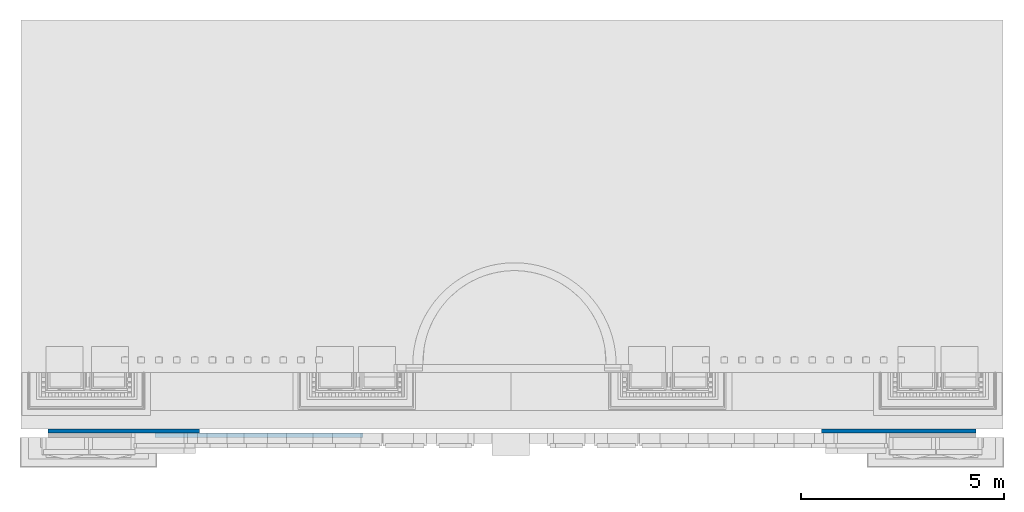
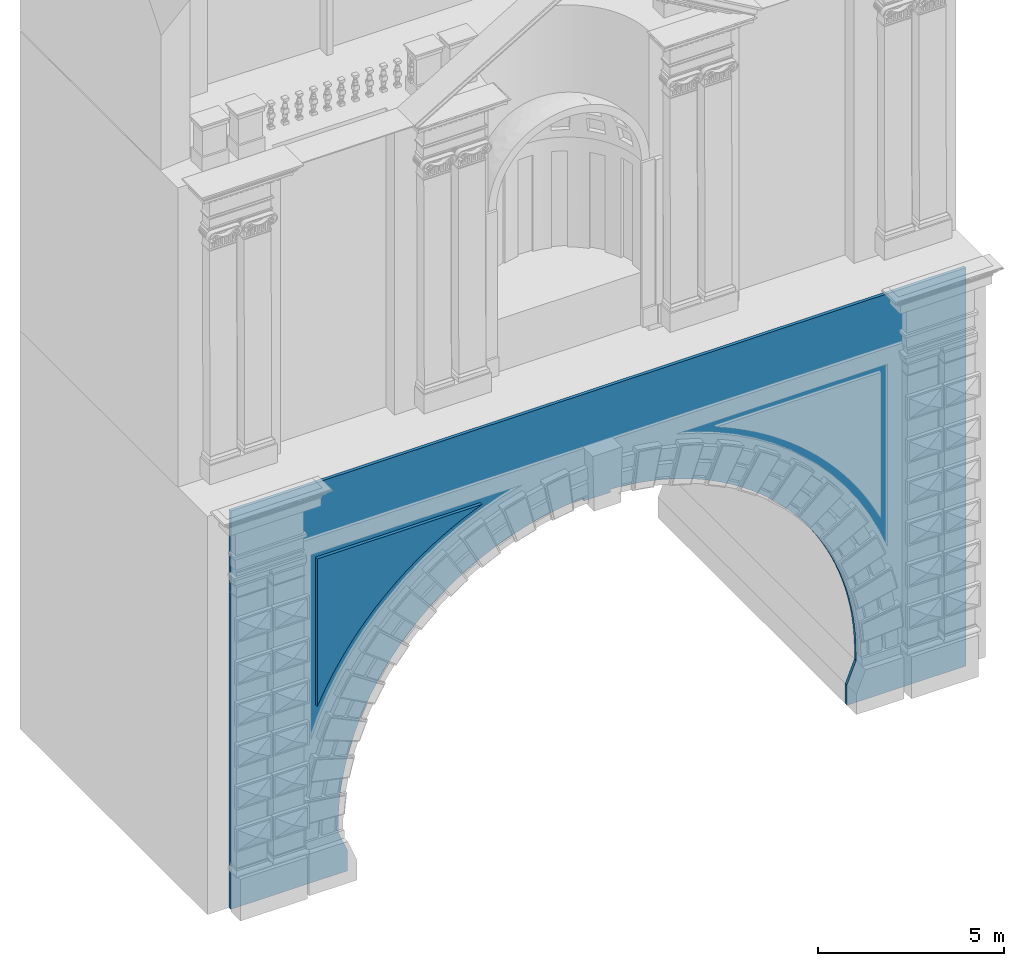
# One storey, part 1 of 44: 2 walls.
"""IFC2X3 building model written with IfcOpenShell, lengths in metres."""

from ifc_helpers import new_model, entity, si_unit, converted_unit, derived_unit, direction, frame, origin, place, context, subcontext, project, spatial, faceted_brep, material, element, save


model = new_model("IFC2X3")

# Units and contexts
model_context = context("Model", 3, precision=1e-05, world=origin(), true_north=direction((6.12303176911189e-17, 1.0)))
body_context = subcontext(model_context, "Body", "Model", "MODEL_VIEW")
ifc_project = project(units=[si_unit("LENGTHUNIT", "METRE"), si_unit("AREAUNIT", "SQUARE_METRE"), si_unit("VOLUMEUNIT", "CUBIC_METRE"), converted_unit("PLANEANGLEUNIT", "DEGREE", entity("IfcRatioMeasure", 0.0174532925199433), si_unit("PLANEANGLEUNIT", "RADIAN"), dimensions=[0, 0, 0, 0, 0, 0, 0]), si_unit("MASSUNIT", "GRAM", prefix="KILO"), derived_unit("MASSDENSITYUNIT", [(si_unit("MASSUNIT", "GRAM", prefix="KILO"), 1), (si_unit("LENGTHUNIT", "METRE"), -3)]), si_unit("TIMEUNIT", "SECOND"), si_unit("FREQUENCYUNIT", "HERTZ"), si_unit("THERMODYNAMICTEMPERATUREUNIT", "DEGREE_CELSIUS"), derived_unit("THERMALTRANSMITTANCEUNIT", [(si_unit("MASSUNIT", "GRAM", prefix="KILO"), 1), (si_unit("THERMODYNAMICTEMPERATUREUNIT", "KELVIN"), -1), (si_unit("TIMEUNIT", "SECOND"), -3)]), derived_unit("VOLUMETRICFLOWRATEUNIT", [(si_unit("LENGTHUNIT", "METRE"), 3), (si_unit("TIMEUNIT", "SECOND"), -1)]), si_unit("ELECTRICCURRENTUNIT", "AMPERE"), si_unit("ELECTRICVOLTAGEUNIT", "VOLT"), si_unit("POWERUNIT", "WATT"), si_unit("FORCEUNIT", "NEWTON", prefix="KILO"), si_unit("ILLUMINANCEUNIT", "LUX"), si_unit("LUMINOUSFLUXUNIT", "LUMEN"), si_unit("LUMINOUSINTENSITYUNIT", "CANDELA"), derived_unit("USERDEFINED", [(si_unit("MASSUNIT", "GRAM", prefix="KILO"), -1), (si_unit("LENGTHUNIT", "METRE"), -2), (si_unit("TIMEUNIT", "SECOND"), 3), (si_unit("LUMINOUSFLUXUNIT", "LUMEN"), 1)]), derived_unit("LINEARVELOCITYUNIT", [(si_unit("LENGTHUNIT", "METRE"), 1), (si_unit("TIMEUNIT", "SECOND"), -1)]), si_unit("PRESSUREUNIT", "PASCAL"), derived_unit("USERDEFINED", [(si_unit("LENGTHUNIT", "METRE"), -2), (si_unit("MASSUNIT", "GRAM", prefix="KILO"), 1), (si_unit("TIMEUNIT", "SECOND"), -2)])], contexts=[model_context])

# Site, building, storey
site_placement = place(None, origin())
site = spatial("IfcSite", under=ifc_project, at=site_placement, Name="Default", CompositionType="ELEMENT")
building_placement = place(site_placement, origin())
building = spatial("IfcBuilding", under=site, at=building_placement, CompositionType="ELEMENT")
storey_placement = place(building_placement, origin())
storey = spatial("IfcBuildingStorey", under=building, at=storey_placement, Name="Livello 1", CompositionType="ELEMENT", Elevation=0.0)

# Walls
ifc_material = material(Name="Travertino")
wall_1_placement = place(storey_placement, frame((-11.4560798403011, -0.234467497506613, 0.0)))
element("IfcWall", 1, at=wall_1_placement, inside=storey, material=ifc_material, Name="Stratigrafia", context=body_context, shape_type="Brep", body=[
    faceted_brep([(0.0, 0.100000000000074, 13.066833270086), (0.0, 0.0, 13.066833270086), (22.8114435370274, 0.0, 13.066833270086), (22.8114435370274, 0.1, 13.066833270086), (0.0, 0.0, 0.0), (3.62394293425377, 0.0, 0.0), (3.62394293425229, 0.0, 0.663748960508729), (3.33733845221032, 0.0, 1.36736325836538), (3.33733845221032, 0.0, 1.63613172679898), (3.34343128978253, 0.0, 1.94896410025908), (3.36170056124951, 0.0, 2.26132198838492), (3.39211855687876, 0.0, 2.57273162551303), (3.43463914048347, 0.0, 2.88272068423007), (3.48919781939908, 0.0, 3.19081899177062), (3.55571184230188, 0.0, 3.49655924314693), (3.63408032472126, 0.0, 3.79947770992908), (3.72418440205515, 0.0, 4.09911494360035), (3.8258874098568, 0.0, 4.39501647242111), (3.93903509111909, 0.0, 4.68673349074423), (4.06345583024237, 0.0, 4.9738235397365), (4.19896091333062, 0.0, 5.25585117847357), (4.34534481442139, 0.0, 5.5323886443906), (4.50238550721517, 0.0, 5.80301650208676), (4.6698448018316, 0.0, 6.06732427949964), (4.84746870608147, 0.0, 6.32491109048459), (5.03498781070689, 0.0, 6.57538624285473), (5.23211769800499, 0.0, 6.81836983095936), (5.43855937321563, 0.0, 7.05349331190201), (5.65399971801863, 0.0, 7.28040006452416), (5.87811196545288, 0.0, 7.49874593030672), (6.11055619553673, 0.0, 7.70819973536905), (6.35097985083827, 0.0, 7.90844379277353), (6.59901827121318, 0.0, 8.09917438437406), (6.85429524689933, 0.0, 8.28010222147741), (7.11642358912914, 0.0, 8.45095288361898), (7.38500571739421, 0.0, 8.61146723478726), (7.65963426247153, 0.0, 8.76140181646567), (7.9398926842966, 0.0, 8.90052921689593), (8.22535590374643, 0.0, 9.02863841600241), (8.5155909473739, 0.0, 9.14553510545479), (8.81015760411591, 0.0, 9.25104198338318), (9.10860909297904, 0.0, 9.34499902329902), (9.41049274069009, 0.0, 9.42726371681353), (9.71535066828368, 0.0, 9.49771128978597), (10.0227204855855, 0.0, 9.55623489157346), (10.3321359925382, 0.0, 9.6027457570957), (10.6431278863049, 0.0, 9.63717334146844), (10.9552244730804, 0.0, 9.65946542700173), (10.9577533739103, 0.0, 9.55915931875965), (11.7851701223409, 0.0, 9.55915931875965), (11.7876990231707, 0.0, 9.65946542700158), (12.0997956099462, 0.0, 9.63717334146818), (12.4107875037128, 0.0, 9.60274575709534), (12.7202030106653, 0.0, 9.55623489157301), (13.0275728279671, 0.0, 9.49771128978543), (13.3324307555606, 0.0, 9.42726371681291), (13.6343144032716, 0.0, 9.34499902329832), (13.9327658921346, 0.0, 9.25104198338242), (14.2273325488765, 0.0, 9.14553510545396), (14.5175675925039, 0.0, 9.02863841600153), (14.8030308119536, 0.0, 8.900529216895), (15.0832892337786, 0.0, 8.76140181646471), (15.3579177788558, 0.0, 8.61146723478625), (15.6264999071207, 0.0, 8.45095288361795), (15.8886282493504, 0.0, 8.28010222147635), (16.1439052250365, 0.0, 8.09917438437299), (16.3919436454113, 0.0, 7.90844379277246), (16.6323673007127, 0.0, 7.70819973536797), (16.8648115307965, 0.0, 7.49874593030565), (17.0889237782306, 0.0, 7.28040006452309), (17.3043641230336, 0.0, 7.05349331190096), (17.5108057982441, 0.0, 6.81836983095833), (17.7079356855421, 0.0, 6.57538624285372), (17.8954547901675, 0.0, 6.32491109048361), (18.0730786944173, 0.0, 6.0673242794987), (18.2405379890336, 0.0, 5.80301650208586), (18.3975786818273, 0.0, 5.53238864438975), (18.543962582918, 0.0, 5.25585117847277), (18.6794676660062, 0.0, 4.97382353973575), (18.8038884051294, 0.0, 4.68673349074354), (18.9170360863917, 0.0, 4.39501647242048), (19.0187390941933, 0.0, 4.09911494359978), (19.1088431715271, 0.0, 3.79947770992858), (19.1872116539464, 0.0, 3.49655924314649), (19.2537256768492, 0.0, 3.19081899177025), (19.3082843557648, 0.0, 2.88272068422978), (19.3508049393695, 0.0, 2.57273162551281), (19.3812229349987, 0.0, 2.26132198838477), (19.3994922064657, 0.0, 1.94896410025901), (19.4055850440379, 0.0, 1.63613172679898), (19.4055850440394, 0.0, 1.36736325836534), (19.1189805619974, 0.0, 0.6637489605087), (19.1189805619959, 0.0, 2.46118697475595e-09), (22.8114435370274, 0.0, 2.46118589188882e-09), (0.0, 0.100000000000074, 0.0), (3.62394293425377, 0.100000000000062, 0.0), (22.8114435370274, 0.1, 2.46118697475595e-09), (3.62394293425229, 0.100000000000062, 0.663748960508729), (3.33733845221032, 0.100000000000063, 1.36736325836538), (3.33733845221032, 0.100000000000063, 1.63613172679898), (3.34343128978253, 0.100000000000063, 1.94896410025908), (3.55571184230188, 0.100000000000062, 3.49655924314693), (3.63408032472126, 0.100000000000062, 3.79947770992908), (3.72418440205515, 0.100000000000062, 4.09911494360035), (3.36170056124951, 0.100000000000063, 2.26132198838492), (3.48919781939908, 0.100000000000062, 3.19081899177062), (3.43463914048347, 0.100000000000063, 2.88272068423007), (3.39211855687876, 0.100000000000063, 2.57273162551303), (3.8258874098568, 0.100000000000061, 4.39501647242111), (4.50238550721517, 0.100000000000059, 5.80301650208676), (4.6698448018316, 0.100000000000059, 6.06732427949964), (4.84746870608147, 0.100000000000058, 6.32491109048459), (5.03498781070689, 0.100000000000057, 6.57538624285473), (5.23211769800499, 0.100000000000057, 6.81836983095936), (3.93903509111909, 0.100000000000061, 4.68673349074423), (4.06345583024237, 0.100000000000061, 4.9738235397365), (4.34534481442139, 0.10000000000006, 5.5323886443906), (4.19896091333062, 0.10000000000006, 5.25585117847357), (5.43855937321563, 0.100000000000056, 7.05349331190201), (5.65399971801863, 0.100000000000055, 7.28040006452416), (6.59901827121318, 0.100000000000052, 8.09917438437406), (6.85429524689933, 0.100000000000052, 8.28010222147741), (7.11642358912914, 0.100000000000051, 8.45095288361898), (7.38500571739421, 0.10000000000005, 8.61146723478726), (7.65963426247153, 0.100000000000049, 8.76140181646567), (5.87811196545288, 0.100000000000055, 7.49874593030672), (6.11055619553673, 0.100000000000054, 7.70819973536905), (6.35097985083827, 0.100000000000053, 7.90844379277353), (7.9398926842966, 0.100000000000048, 8.90052921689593), (9.41049274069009, 0.100000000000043, 9.42726371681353), (9.71535066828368, 0.100000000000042, 9.49771128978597), (10.0227204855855, 0.100000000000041, 9.55623489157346), (10.3321359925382, 0.10000000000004, 9.6027457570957), (10.6431278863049, 0.100000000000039, 9.63717334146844), (8.22535590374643, 0.100000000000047, 9.02863841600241), (8.5155909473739, 0.100000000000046, 9.14553510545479), (9.10860909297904, 0.100000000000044, 9.34499902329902), (8.81015760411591, 0.100000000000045, 9.25104198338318), (10.9552244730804, 0.100000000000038, 9.65946542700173), (10.9577533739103, 0.100000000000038, 9.55915931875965), (11.7851701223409, 0.100000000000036, 9.55915931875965), (11.7876990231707, 0.100000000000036, 9.65946542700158), (13.0275728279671, 0.100000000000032, 9.49771128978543), (13.3324307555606, 0.100000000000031, 9.42726371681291), (13.6343144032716, 0.10000000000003, 9.34499902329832), (13.9327658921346, 0.100000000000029, 9.25104198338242), (14.2273325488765, 0.100000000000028, 9.14553510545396), (12.0997956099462, 0.100000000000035, 9.63717334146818), (12.4107875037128, 0.100000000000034, 9.60274575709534), (12.7202030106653, 0.100000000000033, 9.55623489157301), (14.5175675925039, 0.100000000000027, 9.02863841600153), (15.8886282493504, 0.100000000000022, 8.28010222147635), (16.1439052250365, 0.100000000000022, 8.09917438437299), (16.3919436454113, 0.100000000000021, 7.90844379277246), (16.6323673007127, 0.10000000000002, 7.70819973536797), (16.8648115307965, 0.100000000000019, 7.49874593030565), (14.8030308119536, 0.100000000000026, 8.900529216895), (15.0832892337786, 0.100000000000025, 8.76140181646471), (15.6264999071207, 0.100000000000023, 8.45095288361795), (15.3579177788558, 0.100000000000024, 8.61146723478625), (17.0889237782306, 0.100000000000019, 7.28040006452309), (17.3043641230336, 0.100000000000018, 7.05349331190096), (18.0730786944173, 0.100000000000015, 6.0673242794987), (18.2405379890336, 0.100000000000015, 5.80301650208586), (18.3975786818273, 0.100000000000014, 5.53238864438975), (18.543962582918, 0.100000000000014, 5.25585117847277), (18.6794676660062, 0.100000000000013, 4.97382353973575), (17.5108057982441, 0.100000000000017, 6.81836983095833), (17.7079356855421, 0.100000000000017, 6.57538624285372), (17.8954547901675, 0.100000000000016, 6.32491109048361), (18.8038884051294, 0.100000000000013, 4.68673349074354), (19.2537256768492, 0.100000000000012, 3.19081899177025), (19.3082843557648, 0.100000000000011, 2.88272068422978), (19.3508049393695, 0.100000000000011, 2.57273162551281), (19.3812229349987, 0.100000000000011, 2.26132198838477), (19.3994922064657, 0.100000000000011, 1.94896410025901), (18.9170360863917, 0.100000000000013, 4.39501647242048), (19.0187390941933, 0.100000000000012, 4.09911494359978), (19.1872116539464, 0.100000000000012, 3.49655924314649), (19.1088431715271, 0.100000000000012, 3.79947770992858), (19.4055850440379, 0.100000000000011, 1.63613172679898), (19.4055850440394, 0.100000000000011, 1.36736325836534), (19.1189805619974, 0.100000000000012, 0.6637489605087), (19.1189805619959, 0.100000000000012, 2.46118697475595e-09)], [[[0, 1, 2, 3]], [[4, 5, 6, 7, 8, 9, 10, 11, 12, 13, 14, 15, 16, 17, 18, 19, 20, 21, 22, 23, 24, 25, 26, 27, 28, 29, 30, 31, 32, 33, 34, 35, 36, 37, 38, 39, 40, 41, 42, 43, 44, 45, 46, 47, 48, 49, 50, 51, 52, 53, 54, 55, 56, 57, 58, 59, 60, 61, 62, 63, 64, 65, 66, 67, 68, 69, 70, 71, 72, 73, 74, 75, 76, 77, 78, 79, 80, 81, 82, 83, 84, 85, 86, 87, 88, 89, 90, 91, 92, 93, 2, 1]], [[5, 4, 94, 95]], [[2, 93, 96, 3]], [[4, 1, 0, 94]], [[6, 5, 95, 97]], [[7, 6, 97, 98]], [[8, 7, 98, 99]], [[9, 8, 99, 100]], [[14, 101, 102, 15]], [[15, 102, 103, 16]], [[100, 104, 10, 9]], [[14, 13, 105, 101]], [[106, 105, 13, 12]], [[106, 12, 11, 107]], [[16, 103, 108, 17]], [[10, 104, 107, 11]], [[23, 22, 109, 110]], [[25, 24, 111, 112]], [[111, 24, 23, 110]], [[26, 25, 112, 113]], [[19, 18, 114, 115]], [[116, 21, 20, 117]], [[19, 115, 117, 20]], [[22, 21, 116, 109]], [[18, 17, 108, 114]], [[27, 26, 113, 118]], [[118, 119, 28, 27]], [[32, 120, 121, 33]], [[34, 122, 123, 35]], [[34, 33, 121, 122]], [[35, 123, 124, 36]], [[29, 28, 119, 125]], [[31, 30, 126, 127]], [[126, 30, 29, 125]], [[31, 127, 120, 32]], [[37, 36, 124, 128]], [[43, 42, 129, 130]], [[45, 44, 131, 132]], [[131, 44, 43, 130]], [[46, 45, 132, 133]], [[39, 38, 134, 135]], [[136, 41, 40, 137]], [[39, 135, 137, 40]], [[42, 41, 136, 129]], [[38, 37, 128, 134]], [[47, 46, 133, 138]], [[48, 47, 138, 139]], [[49, 48, 139, 140]], [[50, 49, 140, 141]], [[54, 142, 143, 55]], [[56, 144, 145, 57]], [[56, 55, 143, 144]], [[57, 145, 146, 58]], [[51, 50, 141, 147]], [[53, 52, 148, 149]], [[148, 52, 51, 147]], [[53, 149, 142, 54]], [[59, 58, 146, 150]], [[65, 64, 151, 152]], [[67, 66, 153, 154]], [[153, 66, 65, 152]], [[68, 67, 154, 155]], [[61, 60, 156, 157]], [[158, 63, 62, 159]], [[61, 157, 159, 62]], [[64, 63, 158, 151]], [[60, 59, 150, 156]], [[69, 68, 155, 160]], [[160, 161, 70, 69]], [[74, 162, 163, 75]], [[76, 164, 165, 77]], [[76, 75, 163, 164]], [[77, 165, 166, 78]], [[71, 70, 161, 167]], [[73, 72, 168, 169]], [[168, 72, 71, 167]], [[73, 169, 162, 74]], [[79, 78, 166, 170]], [[85, 84, 171, 172]], [[87, 86, 173, 174]], [[173, 86, 85, 172]], [[88, 87, 174, 175]], [[81, 80, 176, 177]], [[178, 83, 82, 179]], [[81, 177, 179, 82]], [[84, 83, 178, 171]], [[80, 79, 170, 176]], [[89, 88, 175, 180]], [[90, 89, 180, 181]], [[91, 90, 181, 182]], [[92, 91, 182, 183]], [[93, 92, 183]], [[183, 96, 93]], [[96, 183, 182, 181, 180, 175, 174, 173, 172, 171, 178, 179, 177, 176, 170, 166, 165, 164, 163, 162, 169, 168, 167, 161, 160, 155, 154, 153, 152, 151, 158, 159, 157, 156, 150, 146, 145, 144, 143, 142, 149, 148, 147, 141, 140, 139, 138, 133, 132, 131, 130, 129, 136, 137, 135, 134, 128, 124, 123, 122, 121, 120, 127, 126, 125, 119, 118, 113, 112, 111, 110, 109, 116, 117, 115, 114, 108, 103, 102, 101, 105, 106, 107, 104, 100, 99, 98, 97, 95, 94, 0, 3]]]),
])
wall_2_placement = place(storey_placement, frame((-8.8293635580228, -0.334467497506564, 5.79734542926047)))
element("IfcWall", 2, at=wall_2_placement, inside=storey, material=ifc_material, Name="Stratigrafia", context=body_context, shape_type="Brep", body=[
    faceted_brep([(0.00241451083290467, 0.100000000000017, 4.84397091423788), (0.00241451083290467, 0.0, 4.84397091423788), (5.11290920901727, 0.0, 4.84397091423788), (5.11290920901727, 0.1, 4.84397091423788), (4.18039714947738, 0.100000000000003, 4.40823853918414), (4.48598270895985, 0.100000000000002, 4.56454986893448), (4.48598270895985, 0.0, 4.56454986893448), (4.18039714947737, 0.0, 4.40823853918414), (4.79695212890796, 0.100000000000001, 4.70985570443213), (4.79695212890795, 0.0, 4.70985570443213), (3.88058479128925, 0.100000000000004, 4.24112086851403), (3.88058479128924, 0.0, 4.24112086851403), (2.74658659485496, 0.100000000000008, 3.46904591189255), (3.01956708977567, 0.100000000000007, 3.67712622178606), (3.01956708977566, 0.0, 3.67712622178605), (2.74658659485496, 0.0, 3.46904591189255), (2.48120609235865, 0.100000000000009, 3.2513558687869), (2.48120609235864, 0.0, 3.25135586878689), (3.29979977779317, 0.100000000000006, 3.87533168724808), (3.58692761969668, 0.100000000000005, 4.0634097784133), (3.58692761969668, 0.0, 4.0634097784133), (3.29979977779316, 0.0, 3.87533168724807), (2.22376369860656, 0.100000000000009, 3.02433344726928), (2.22376369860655, 0.0, 3.02433344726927), (1.97458741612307, 0.0, 2.7882678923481), (1.97458741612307, 0.10000000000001, 2.7882678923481), (1.27977487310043, 0.100000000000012, 2.02887538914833), (1.50229213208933, 0.100000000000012, 2.29022158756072), (1.50229213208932, 0.0, 2.29022158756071), (1.27977487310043, 0.0, 2.02887538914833), (1.73399471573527, 0.100000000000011, 2.54345997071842), (1.73399471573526, 0.0, 2.54345997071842), (1.06672644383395, 0.100000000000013, 1.75975435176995), (1.06672644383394, 0.0, 1.75975435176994), (0.314461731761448, 0.100000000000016, 0.612518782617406), (0.487046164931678, 0.100000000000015, 0.909217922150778), (0.487046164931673, 0.0, 0.90921792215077), (0.314461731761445, 0.0, 0.612518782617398), (0.152576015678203, 0.100000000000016, 0.309849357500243), (0.152576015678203, 0.0, 0.309849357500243), (0.670109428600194, 0.100000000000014, 1.19956875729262), (0.863418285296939, 0.100000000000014, 1.48320135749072), (0.863418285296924, 0.0, 1.4832013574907), (0.670109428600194, 0.0, 1.19956875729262), (0.00159527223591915, 0.100000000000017, 0.00159527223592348), (0.00159527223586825, 0.0, 0.00159527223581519)], [[[0, 1, 2, 3]], [[4, 5, 6, 7]], [[8, 3, 2, 9]], [[8, 9, 6, 5]], [[10, 4, 7, 11]], [[12, 13, 14, 15]], [[16, 12, 15, 17]], [[18, 19, 20, 21]], [[13, 18, 21, 14]], [[10, 11, 20, 19]], [[22, 16, 17, 23]], [[23, 24, 25, 22]], [[26, 27, 28, 29]], [[30, 25, 24, 31]], [[30, 31, 28, 27]], [[32, 26, 29, 33]], [[34, 35, 36, 37]], [[38, 34, 37, 39]], [[40, 41, 42, 43]], [[35, 40, 43, 36]], [[32, 33, 42, 41]], [[44, 38, 39, 45]], [[44, 45, 1, 0]], [[0, 3, 8, 5, 4, 10, 19, 18, 13, 12, 16, 22, 25, 30, 27, 26, 32, 41, 40, 35, 34, 38, 44]], [[45, 39, 37, 36, 43, 42, 33, 29, 28, 31, 24, 23, 17, 15, 14, 21, 20, 11, 7, 6, 9, 2, 1]]]),
])

save(model, "model.ifc")
